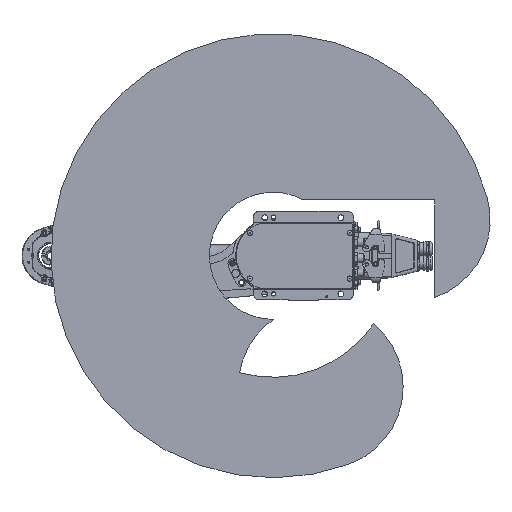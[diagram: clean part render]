
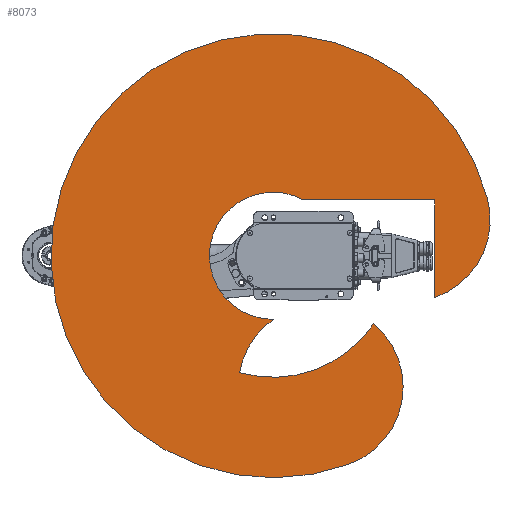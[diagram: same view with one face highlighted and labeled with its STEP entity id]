
A CAD part, front view. The second image highlights one B-rep face of the part: STEP entity #8073.
In plain terms, the highlighted planar face has unit normal (0, -1, 0).
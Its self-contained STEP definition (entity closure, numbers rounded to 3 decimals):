
#8073 = ADVANCED_FACE( '', ( #18741 ), #18742, .F. );
#18741 = FACE_OUTER_BOUND( '', #32984, .T. );
#18742 = PLANE( '', #32985 );
#32984 = EDGE_LOOP( '', ( #57015, #57016, #57017, #57018, #57019, #57020, #57021, #57022 ) );
#32985 = AXIS2_PLACEMENT_3D( '', #57023, #57024, #57025 );
#57015 = ORIENTED_EDGE( '', *, *, #82048, .T. );
#57016 = ORIENTED_EDGE( '', *, *, #82049, .F. );
#57017 = ORIENTED_EDGE( '', *, *, #82050, .F. );
#57018 = ORIENTED_EDGE( '', *, *, #77565, .F. );
#57019 = ORIENTED_EDGE( '', *, *, #82051, .T. );
#57020 = ORIENTED_EDGE( '', *, *, #82052, .T. );
#57021 = ORIENTED_EDGE( '', *, *, #82053, .T. );
#57022 = ORIENTED_EDGE( '', *, *, #82054, .T. );
#57023 = CARTESIAN_POINT( '', ( 103.366, 0., 37.622 ) );
#57024 = DIRECTION( '', ( 0., 1., 0. ) );
#57025 = DIRECTION( '', ( 0., 0., 1. ) );
#77565 = EDGE_CURVE( '', #93266, #93267, #93268, .T. );
#82048 = EDGE_CURVE( '', #100040, #100041, #100042, .T. );
#82049 = EDGE_CURVE( '', #100043, #100041, #100044, .T. );
#82050 = EDGE_CURVE( '', #93267, #100043, #100045, .T. );
#82051 = EDGE_CURVE( '', #93266, #100046, #100047, .T. );
#82052 = EDGE_CURVE( '', #100046, #100048, #100049, .T. );
#82053 = EDGE_CURVE( '', #100048, #100050, #100051, .T. );
#82054 = EDGE_CURVE( '', #100050, #100040, #100052, .T. );
#93266 = VERTEX_POINT( '', #116884 );
#93267 = VERTEX_POINT( '', #116885 );
#93268 = CIRCLE( '', #116886, 130. );
#100040 = VERTEX_POINT( '', #128307 );
#100041 = VERTEX_POINT( '', #128308 );
#100042 = LINE( '', #128309, #128310 );
#100043 = VERTEX_POINT( '', #128311 );
#100044 = CIRCLE( '', #128312, 130. );
#100045 = CIRCLE( '', #128313, 350. );
#100046 = VERTEX_POINT( '', #128314 );
#100047 = CIRCLE( '', #128315, 191.57 );
#100048 = VERTEX_POINT( '', #128316 );
#100049 = CIRCLE( '', #128317, 130. );
#100050 = VERTEX_POINT( '', #128318 );
#100051 = CIRCLE( '', #128319, 100.24 );
#100052 = LINE( '', #128320, #128321 );
#116884 = CARTESIAN_POINT( '', ( 107.145, 0., 158.805 ) );
#116885 = CARTESIAN_POINT( '', ( 328.892, 0., 119.707 ) );
#116886 = AXIS2_PLACEMENT_3D( '', #140768, #140769, #140770 );
#128307 = CARTESIAN_POINT( '', ( -88., 0., 255. ) );
#128308 = CARTESIAN_POINT( '', ( 65.918, 0., 255. ) );
#128309 = CARTESIAN_POINT( '', ( -88., 0., 255. ) );
#128310 = VECTOR( '', #145526, 1000. );
#128311 = CARTESIAN_POINT( '', ( -90.587, 0., 338.074 ) );
#128312 = AXIS2_PLACEMENT_3D( '', #145527, #145528, #145529 );
#128313 = AXIS2_PLACEMENT_3D( '', #145530, #145531, #145532 );
#128314 = CARTESIAN_POINT( '', ( 184.156, 0., -52.78 ) );
#128315 = AXIS2_PLACEMENT_3D( '', #145533, #145534, #145535 );
#128316 = CARTESIAN_POINT( '', ( 100.238, 0., 0.687 ) );
#128317 = AXIS2_PLACEMENT_3D( '', #145536, #145537, #145538 );
#128318 = CARTESIAN_POINT( '', ( -88., 0., 48.001 ) );
#128319 = AXIS2_PLACEMENT_3D( '', #145539, #145540, #145541 );
#128320 = CARTESIAN_POINT( '', ( -88., 0., 48.001 ) );
#128321 = VECTOR( '', #145542, 1000. );
#140768 = CARTESIAN_POINT( '', ( 206.732, 0., 75.244 ) );
#140769 = DIRECTION( '', ( 0., 1., 0. ) );
#140770 = DIRECTION( '', ( 1., 0., 0. ) );
#145526 = DIRECTION( '', ( 1., 0., 0. ) );
#145527 = CARTESIAN_POINT( '', ( -56.94, 0., 212.504 ) );
#145528 = DIRECTION( '', ( 0., 1., 0. ) );
#145529 = DIRECTION( '', ( 1., 0., 0. ) );
#145530 = CARTESIAN_POINT( '', ( 0., 0., 0. ) );
#145531 = DIRECTION( '', ( 0., 1., 0. ) );
#145532 = DIRECTION( '', ( 1., 0., 0. ) );
#145533 = CARTESIAN_POINT( '', ( 0., 0., 0. ) );
#145534 = DIRECTION( '', ( 0., 1., 0. ) );
#145535 = DIRECTION( '', ( 1., 0., 0. ) );
#145536 = CARTESIAN_POINT( '', ( 206.732, 0., 75.244 ) );
#145537 = DIRECTION( '', ( 0., 1., 0. ) );
#145538 = DIRECTION( '', ( 1., 0., 0. ) );
#145539 = CARTESIAN_POINT( '', ( 0., 0., 0. ) );
#145540 = DIRECTION( '', ( 0., 1., 0. ) );
#145541 = DIRECTION( '', ( 1., 0., 0. ) );
#145542 = DIRECTION( '', ( 0., 0., 1. ) );
